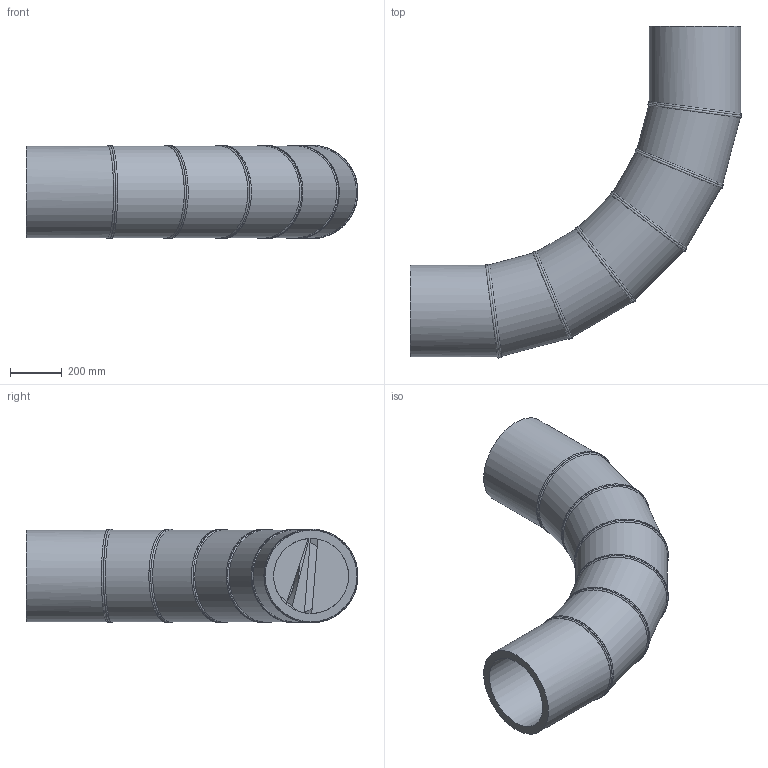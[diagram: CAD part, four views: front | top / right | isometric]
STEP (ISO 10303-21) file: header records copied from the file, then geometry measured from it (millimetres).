
FILE_DESCRIPTION(/* description */ ('Unknown'),/* implementation_level */ '2;1');
FILE_NAME(/* name */ 'Curva 90° a settore DE355 SDR11',/* time_stamp */ '2022-07-27T08:59:14+02:00',/* author */ ('Unknown'),/* organization */ ('Unknown'),/* preprocessor_version */ 'ST-DEVELOPER v18.102',/* originating_system */ 'Solid Edge',/* authorisation */ 'Unknown');
FILE_SCHEMA (('AUTOMOTIVE_DESIGN {1 0 10303 214 3 1 1}'));
Length unit declared in the file: millimetre
Products named in the file (3): Curva 90° a settore DE355 SDR11; Tubo x Gomito 90° DE355 SDR11 - 2; Tubo x Gomito 90° DE355 SDR11 - 1
Assembly tree (7 placements, depth 2):
  Curva 90° a settore DE355 SDR11
    Tubo x Gomito 90° DE355 SDR11 - 2  x5
    Tubo x Gomito 90° DE355 SDR11 - 1  x2
Bounding box: 1285.58 x 1285.58 x 362.99 mm (x, y, z)
Volume: 60112517.9 mm3; surface area: 4236804.6 mm2
Topology: 7 solids, 7 shells, 64 faces, 143 edges, 93 vertices
Faces by surface type: cylinder 38, plane 14, bspline 12
Full cylindrical faces by diameter (mm): 290.6 x7, 355 x7
Entity records: 2373 total; most frequent: CARTESIAN_POINT 1950, DIRECTION 78, ORIENTED_EDGE 52, AXIS2_PLACEMENT_3D 39, EDGE_LOOP 28, FACE_BOUND 28, EDGE_CURVE 26, VERTEX_POINT 20
